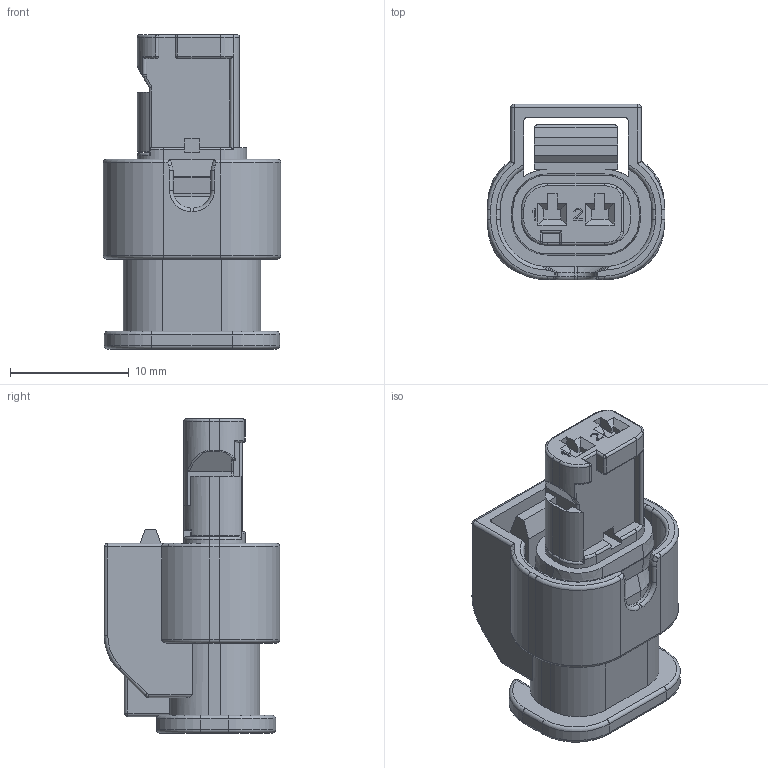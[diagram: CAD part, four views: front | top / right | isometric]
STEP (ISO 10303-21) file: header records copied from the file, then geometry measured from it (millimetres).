
FILE_DESCRIPTION((''),'2;1');
FILE_NAME('C-1-1670915-1','2013-07-15T',('workeradm'),('Tyco Electronics Ltd.'),'PRO/ENGINEER BY PARAMETRIC TECHNOLOGY CORPORATION, 2011490','PRO/ENGINEER BY PARAMETRIC TECHNOLOGY CORPORATION, 2011490','');
FILE_SCHEMA(('AUTOMOTIVE_DESIGN { 1 0 10303 214 1 1 1 1 }'));
Length unit declared in the file: millimetre
Products named in the file (1): C-1-1670915-1
Bounding box: 15 x 14.8 x 26.5 mm (x, y, z)
Volume: 2322.2 mm3; surface area: 2442.7 mm2
Topology: 1 solids, 1 shells, 440 faces, 1106 edges, 674 vertices
Faces by surface type: plane 208, cylinder 136, torus 48, bspline 20, cone 14, sphere 14
Entity records: 15047 total; most frequent: CARTESIAN_POINT 4171, DIRECTION 2217, ORIENTED_EDGE 2212, EDGE_CURVE 1106, AXIS2_PLACEMENT_3D 760, VECTOR 697, LINE 697, VERTEX_POINT 674
